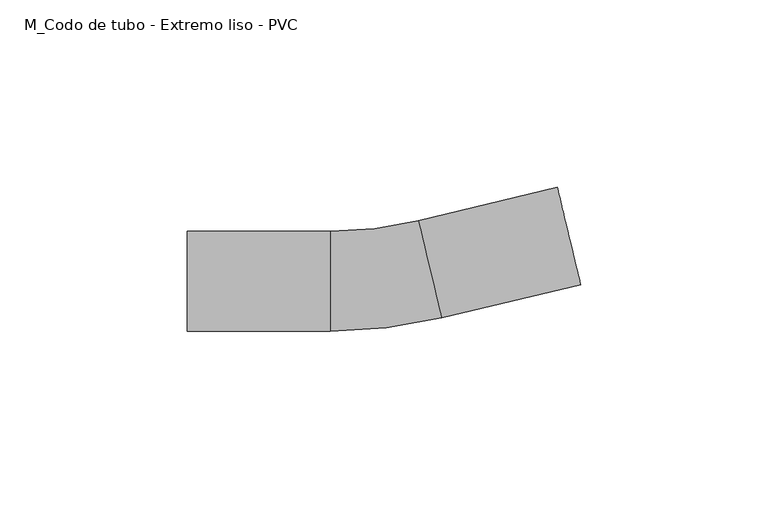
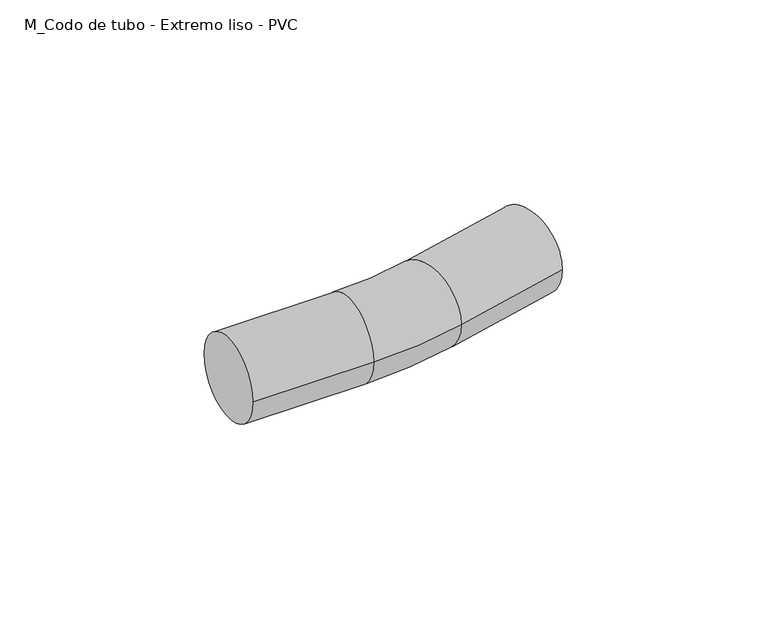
"""IFC4 building model written with IfcOpenShell, lengths in millimetres: cable carrier fitting geometry, M_Codo de tubo - Extremo liso - PVC : CODO ILUMINACION."""

from ifc_helpers import new_model, si_unit, point, frame, origin, place, context, project, spatial, circle_curve, ellipse_curve, trimmed, source, transform, mapped, element, save
from ifc_brep_helpers import plane_surface, cylinder_surface, revolved_surface, advanced_brep


def m_codo_de_tubo_extremo_liso_pvc_21988e95(model_context):
    return source(origin(), model_context, "Body", "AdvancedBrep", [
        advanced_brep(
        [(-51.6029211, -13.335, 0.0), (-51.6029211, 13.335, 0.0), (-13.5029211, -13.335, 0.0), (-13.5029211, 13.335, 0.0), (10.0238977, 16.1143594, 0.0), (16.2385291, -9.8214702, 0.0), (53.2897142, -0.9434254, 0.0), (47.0750828, 24.9924042, 0.0)],
        [
            (0, 1, circle_curve(frame((-51.6029211, 0.0, 0.0), z_axis=(-1.0, 0.0, 0.0), x_axis=(0.0, 1.0, 0.0)), 13.335)),
            (1, 0, circle_curve(frame((-51.6029211, 0.0, 0.0), z_axis=(-1.0, 0.0, 0.0), x_axis=(0.0, 1.0, 0.0)), 13.335)),
            (0, 2),
            (2, 3, circle_curve(frame((-13.5029211, 0.0, 0.0), z_axis=(-1.0, 0.0, 0.0), x_axis=(0.0, 1.0, 0.0)), 13.335)),
            (3, 1),
            (3, 2, circle_curve(frame((-13.5029211, 0.0, 0.0), z_axis=(-1.0, 0.0, 0.0), x_axis=(0.0, 1.0, 0.0)), 13.335)),
            (4, 3, circle_curve(frame((-13.5029211, 114.3, 0.0), z_axis=(0.0, 0.0, -1.0), x_axis=(0.0, -1.0, 0.0)), 100.965)),
            (2, 5, circle_curve(frame((-13.5029211, 114.3, 0.0), z_axis=(0.0, 0.0, 1.0), x_axis=(0.0, -1.0, 0.0)), 127.635)),
            (5, 4, circle_curve(frame((13.1312134, 3.1464446, 0.0), z_axis=(-0.9724720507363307, -0.23301954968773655, 0.0), x_axis=(-0.23301954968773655, 0.9724720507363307, 0.0)), 13.335)),
            (4, 5, circle_curve(frame((13.1312134, 3.1464446, 0.0), z_axis=(-0.9724720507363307, -0.23301954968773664, 0.0), x_axis=(-0.23301954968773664, 0.9724720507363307, 0.0)), 13.335)),
            (6, 7, circle_curve(frame((50.1823985, 12.0244894, 0.0), z_axis=(0.9724720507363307, 0.2330195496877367, 0.0), x_axis=(-0.2330195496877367, 0.9724720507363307, 0.0)), 13.335)),
            (7, 6, circle_curve(frame((50.1823985, 12.0244894, 0.0), z_axis=(0.9724720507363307, 0.2330195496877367, 0.0), x_axis=(-0.2330195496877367, 0.9724720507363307, 0.0)), 13.335)),
            (5, 6),
            (7, 4),
        ],
        [
            plane_surface(frame((-51.6029211, 0.0, 0.0), z_axis=(-1.0, 0.0, 0.0), x_axis=(0.0, 0.0, 1.0))),
            cylinder_surface(frame((-51.6029211, 0.0, 0.0), z_axis=(-1.0, 0.0, 0.0), x_axis=(0.0, 1.0, 0.0)), 13.335),
            revolved_surface(trimmed(ellipse_curve(frame((-13.5029211, 0.0, 0.0), z_axis=(-1.0, 0.0, 0.0), x_axis=(0.0, 1.0, 0.0)), 13.335, 13.335), [point((-13.5029211, -13.335, 0.0))], [point((-13.5029211, 13.335, 0.0))], True, "CARTESIAN"), (-13.5029211, 114.3, 0.0), (0.0, 0.0, 1.0)),
            revolved_surface(trimmed(ellipse_curve(frame((-13.5029211, 0.0, 0.0), z_axis=(-1.0, 0.0, 0.0), x_axis=(0.0, 1.0, 0.0)), 13.335, 13.335), [point((-13.5029211, 13.335, 0.0))], [point((-13.5029211, -13.335, 0.0))], True, "CARTESIAN"), (-13.5029211, 114.3, 0.0), (0.0, 0.0, 1.0)),
            plane_surface(frame((50.1823985, 12.0244894, 0.0), z_axis=(0.9724720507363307, 0.2330195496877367, 0.0), x_axis=(0.0, 0.0, 1.0))),
            cylinder_surface(frame((13.1312134, 3.1464446, 0.0), z_axis=(-0.9724720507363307, -0.2330195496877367, 0.0), x_axis=(-0.2330195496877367, 0.9724720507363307, 0.0)), 13.335),
        ],
        [
            (0, [[1, 2]]),
            (1, [[-1, 3, 4, 5]]),
            (1, [[-2, -5, 6, -3]]),
            (2, [[7, -4, 8, 9]]),
            (3, [[-8, -6, -7, 10]]),
            (4, [[11, 12]]),
            (5, [[-9, 13, -12, 14]]),
            (5, [[-10, -14, -11, -13]]),
        ],
    ),
    ])


if __name__ == "__main__":
    model = new_model("IFC4")
    model_context = context("Model", 3, world=origin())
    ifc_project = project(units=[si_unit("LENGTHUNIT", "METRE", prefix="MILLI")], contexts=[model_context])
    site = spatial("IfcSite", under=ifc_project)
    building = spatial("IfcBuilding", under=site)
    placement = place(None, origin())
    m_codo_de_tubo_extremo_liso_pvc_shape = m_codo_de_tubo_extremo_liso_pvc_21988e95(model_context)
    element("IfcCableCarrierFitting", 1, ObjectType="M_Codo de tubo - Extremo liso - PVC : CODO ILUMINACION", at=placement, inside=building, context=model_context, shape_type="MappedRepresentation", body=[
        mapped(m_codo_de_tubo_extremo_liso_pvc_shape, transform((0.0, 0.0, 0.0), x_axis=(1.0, 0.0, 0.0), y_axis=(0.0, 1.0, 0.0), z_axis=(0.0, 0.0, 1.0))),
    ])
    save(model, "model.ifc")
